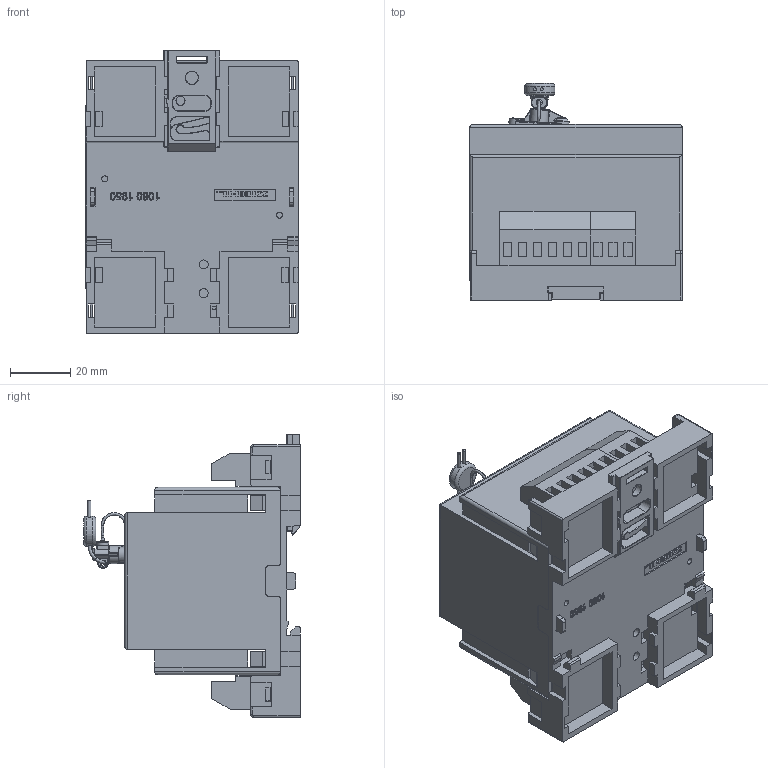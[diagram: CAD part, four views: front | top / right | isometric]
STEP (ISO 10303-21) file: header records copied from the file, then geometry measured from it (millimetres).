
FILE_DESCRIPTION (( 'STEP AP214' ), '1' );
FILE_NAME ('12290-1900-00_3D.STEP', '2014-11-06T10:34:58', ( '' ), ( '' ), 'SwSTEP 2.0', 'SolidWorks 2015', '' );
FILE_SCHEMA (( 'AUTOMOTIVE_DESIGN' ));
Length unit declared in the file: millimetre
Products named in the file (12): 31071103; 12290-1201-03_3D; 31071106; V4_Frontplatte; 1080 1960.3_3D_V4_OT; V4_Leiterplatte; 1080 1990.5_V-Riegel_3D; 1080 1950.4_3D_V4_UT; 12290-1900-00_3D; Plombe1; Plombiertaster; plombierteil
Assembly tree (13 placements, depth 2):
  12290-1900-00_3D
    1080 1950.4_3D_V4_UT
    1080 1990.5_V-Riegel_3D
    V4_Leiterplatte
    1080 1960.3_3D_V4_OT
    V4_Frontplatte
    31071106  x2
    12290-1201-03_3D
    31071103  x2
    plombierteil
    Plombiertaster
    Plombe1
Bounding box: 70.5 x 71.9 x 93.79 mm (x, y, z)
Volume: 71447.8 mm3; surface area: 83738.9 mm2
Topology: 561 solids, 561 shells, 8775 faces, 22354 edges, 14772 vertices
Faces by surface type: plane 7273, bspline 1123, cylinder 316, torus 40, sphere 18, cone 5
Full cylindrical faces by diameter (mm): 0.9 x2, 1 x2, 1.5 x5, 1.7 x1, 1.8 x4, 2 x3, 2.8 x2, 2.9 x1, 3 x4, 3.5 x4, 3.658 x2, 4 x20, 4.1 x1, 4.2 x1, 4.5 x2, 6 x2, 10 x1
Entity records: 302524 total; most frequent: CARTESIAN_POINT 95255, ORIENTED_EDGE 43612, DIRECTION 34628, EDGE_CURVE 21806, LINE 18644, VECTOR 18644, VERTEX_POINT 14476, EDGE_LOOP 9026
